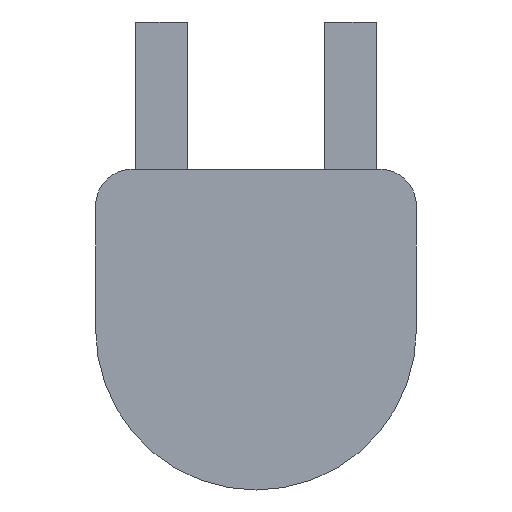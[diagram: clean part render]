
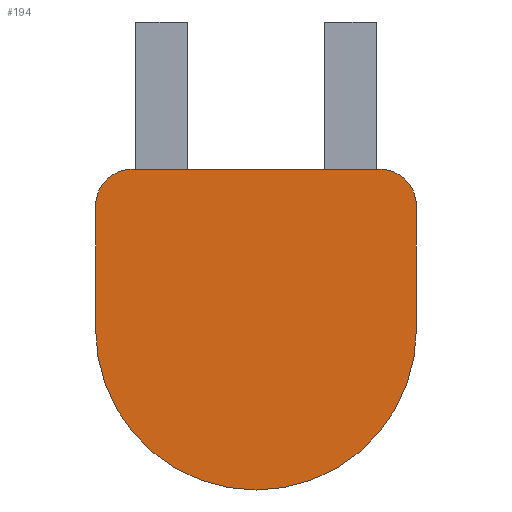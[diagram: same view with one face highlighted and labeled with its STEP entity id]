
A CAD part, front view. The second image highlights one B-rep face of the part: STEP entity #194.
In plain terms, the highlighted planar face has unit normal (0, -1, 0).
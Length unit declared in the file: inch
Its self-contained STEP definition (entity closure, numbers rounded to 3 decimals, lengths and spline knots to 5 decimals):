
#11 = CIRCLE ( 'NONE', #351, 0.125 ) ;
#16 = EDGE_CURVE ( 'NONE', #316, #476, #475, .T. ) ;
#38 = DIRECTION ( 'NONE',  ( 0., 1., 0. ) ) ;
#51 = EDGE_CURVE ( 'NONE', #476, #422, #293, .T. ) ;
#57 = FACE_OUTER_BOUND ( 'NONE', #342, .T. ) ;
#64 = CARTESIAN_POINT ( 'NONE',  ( 0., 0., 0.55 ) ) ;
#71 = CARTESIAN_POINT ( 'NONE',  ( 0.425, 0., 0.425 ) ) ;
#75 = ORIENTED_EDGE ( 'NONE', *, *, #506, .F. ) ;
#77 = CIRCLE ( 'NONE', #488, 0.55 ) ;
#80 = VERTEX_POINT ( 'NONE', #577 ) ;
#97 = DIRECTION ( 'NONE',  ( 0., 1., 0. ) ) ;
#101 = EDGE_CURVE ( 'NONE', #322, #316, #11, .T. ) ;
#113 = CARTESIAN_POINT ( 'NONE',  ( -0.425, 0., 0.55 ) ) ;
#120 = DIRECTION ( 'NONE',  ( 0., 1., 0. ) ) ;
#139 = CARTESIAN_POINT ( 'NONE',  ( -0.55, 0., 0. ) ) ;
#148 = VECTOR ( 'NONE', #575, 39.37008 ) ;
#151 = AXIS2_PLACEMENT_3D ( 'NONE', #226, #38, #227 ) ;
#159 = EDGE_CURVE ( 'NONE', #422, #197, #552, .T. ) ;
#162 = ORIENTED_EDGE ( 'NONE', *, *, #16, .F. ) ;
#165 = DIRECTION ( 'NONE',  ( 1., 0., 0. ) ) ;
#191 = DIRECTION ( 'NONE',  ( 0., 1., 0. ) ) ;
#193 = CARTESIAN_POINT ( 'NONE',  ( 0., 0., 0. ) ) ;
#194 = ADVANCED_FACE ( 'NONE', ( #57 ), #241, .F. ) ;
#197 = VERTEX_POINT ( 'NONE', #199 ) ;
#199 = CARTESIAN_POINT ( 'NONE',  ( 0.55, 0., 0. ) ) ;
#200 = ORIENTED_EDGE ( 'NONE', *, *, #456, .F. ) ;
#205 = VERTEX_POINT ( 'NONE', #461 ) ;
#222 = CARTESIAN_POINT ( 'NONE',  ( 0.425, 0., 0.55 ) ) ;
#225 = DIRECTION ( 'NONE',  ( 0., 1., 0. ) ) ;
#226 = CARTESIAN_POINT ( 'NONE',  ( 0., 0., 0. ) ) ;
#227 = DIRECTION ( 'NONE',  ( 0., 0., 1. ) ) ;
#241 = PLANE ( 'NONE',  #396 ) ;
#249 = ORIENTED_EDGE ( 'NONE', *, *, #101, .F. ) ;
#272 = CARTESIAN_POINT ( 'NONE',  ( 0.55, 0., 0.425 ) ) ;
#274 = AXIS2_PLACEMENT_3D ( 'NONE', #71, #120, #352 ) ;
#283 = DIRECTION ( 'NONE',  ( 0., 0., 1. ) ) ;
#293 = CIRCLE ( 'NONE', #274, 0.125 ) ;
#299 = CARTESIAN_POINT ( 'NONE',  ( -0.55, 0., 0.425 ) ) ;
#306 = ORIENTED_EDGE ( 'NONE', *, *, #51, .F. ) ;
#316 = VERTEX_POINT ( 'NONE', #113 ) ;
#322 = VERTEX_POINT ( 'NONE', #299 ) ;
#326 = DIRECTION ( 'NONE',  ( 0., 0., -1. ) ) ;
#332 = CARTESIAN_POINT ( 'NONE',  ( 0.55, 0., 0. ) ) ;
#342 = EDGE_LOOP ( 'NONE', ( #75, #531, #200, #567, #306, #162, #249 ) ) ;
#351 = AXIS2_PLACEMENT_3D ( 'NONE', #446, #225, #533 ) ;
#352 = DIRECTION ( 'NONE',  ( 0., 0., 1. ) ) ;
#363 = LINE ( 'NONE', #139, #148 ) ;
#369 = CARTESIAN_POINT ( 'NONE',  ( 0., 0., 0. ) ) ;
#379 = DIRECTION ( 'NONE',  ( 0., 0., 1. ) ) ;
#396 = AXIS2_PLACEMENT_3D ( 'NONE', #193, #97, #379 ) ;
#408 = CIRCLE ( 'NONE', #151, 0.55 ) ;
#415 = VECTOR ( 'NONE', #165, 39.37008 ) ;
#422 = VERTEX_POINT ( 'NONE', #272 ) ;
#423 = VECTOR ( 'NONE', #326, 39.37008 ) ;
#446 = CARTESIAN_POINT ( 'NONE',  ( -0.425, 0., 0.425 ) ) ;
#456 = EDGE_CURVE ( 'NONE', #197, #80, #408, .T. ) ;
#461 = CARTESIAN_POINT ( 'NONE',  ( -0.55, 0., 0. ) ) ;
#475 = LINE ( 'NONE', #64, #415 ) ;
#476 = VERTEX_POINT ( 'NONE', #222 ) ;
#488 = AXIS2_PLACEMENT_3D ( 'NONE', #369, #191, #283 ) ;
#506 = EDGE_CURVE ( 'NONE', #205, #322, #363, .T. ) ;
#531 = ORIENTED_EDGE ( 'NONE', *, *, #545, .F. ) ;
#533 = DIRECTION ( 'NONE',  ( 0., 0., 1. ) ) ;
#545 = EDGE_CURVE ( 'NONE', #80, #205, #77, .T. ) ;
#552 = LINE ( 'NONE', #332, #423 ) ;
#567 = ORIENTED_EDGE ( 'NONE', *, *, #159, .F. ) ;
#575 = DIRECTION ( 'NONE',  ( 0., 0., 1. ) ) ;
#577 = CARTESIAN_POINT ( 'NONE',  ( 0., 0., -0.55 ) ) ;
